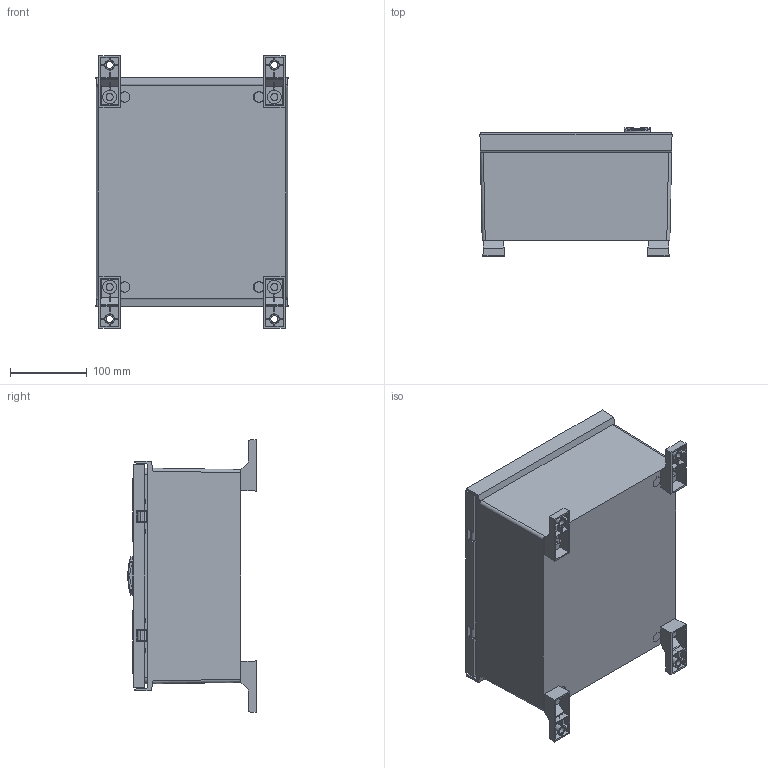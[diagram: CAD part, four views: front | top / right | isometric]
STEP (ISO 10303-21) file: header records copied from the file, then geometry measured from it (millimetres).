
FILE_DESCRIPTION (( 'STEP AP203' ), '1' );
FILE_NAME ('CN5N0391 simple.STEP', '2026-07-08T11:41:50', ( '' ), ( '' ), 'SwSTEP 2.0', 'SolidWorks 2022', '' );
FILE_SCHEMA (( 'CONFIG_CONTROL_DESIGN' ));
Products named in the file (1): CN5N0391 simple
Bounding box: 250.72 x 167.44 x 355.7 mm (x, y, z)
Volume: 1119393.7 mm3; surface area: 755775.9 mm2
Topology: 45 solids, 49 shells, 5287 faces, 13095 edges, 8091 vertices
Faces by surface type: plane 2438, cylinder 1355, cone 806, bspline 335, torus 227, sphere 126
Entity records: 202940 total; most frequent: CARTESIAN_POINT 80455, ORIENTED_EDGE 25882, DIRECTION 24589, EDGE_CURVE 12941, AXIS2_PLACEMENT_3D 8486, VERTEX_POINT 8088, VECTOR 7617, LINE 7617
